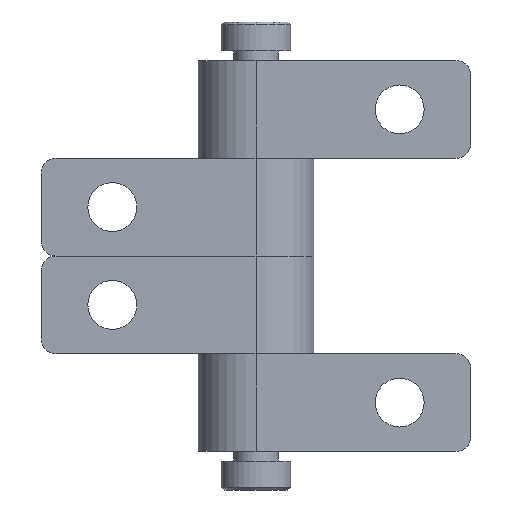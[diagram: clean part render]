
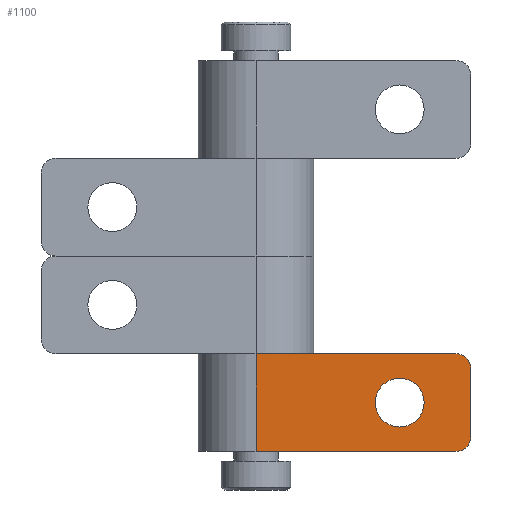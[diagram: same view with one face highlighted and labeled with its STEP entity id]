
A CAD part, front view. The second image highlights one B-rep face of the part: STEP entity #1100.
In plain terms, the highlighted planar face has unit normal (0, -1, 0).
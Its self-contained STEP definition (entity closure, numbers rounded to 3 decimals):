
#9 = CARTESIAN_POINT ( 'NONE',  ( 0., -3.9, -19.8 ) ) ;
#20 = EDGE_LOOP ( 'NONE', ( #166, #1196, #2522, #1598, #1761, #580 ) ) ;
#36 = LINE ( 'NONE', #2253, #2681 ) ;
#91 = VERTEX_POINT ( 'NONE', #2631 ) ;
#102 = CARTESIAN_POINT ( 'NONE',  ( 11.35, -3.9, -16.5 ) ) ;
#118 = VERTEX_POINT ( 'NONE', #214 ) ;
#166 = ORIENTED_EDGE ( 'NONE', *, *, #318, .F. ) ;
#179 = CARTESIAN_POINT ( 'NONE',  ( 9.7, -3.9, -16.5 ) ) ;
#214 = CARTESIAN_POINT ( 'NONE',  ( 14.5, -3.9, -18.8 ) ) ;
#243 = AXIS2_PLACEMENT_3D ( 'NONE', #1719, #1274, #1455 ) ;
#318 = EDGE_CURVE ( 'NONE', #91, #529, #493, .T. ) ;
#493 = LINE ( 'NONE', #2424, #1680 ) ;
#529 = VERTEX_POINT ( 'NONE', #2487 ) ;
#580 = ORIENTED_EDGE ( 'NONE', *, *, #749, .T. ) ;
#650 = DIRECTION ( 'NONE',  ( 1., 0., 0. ) ) ;
#688 = AXIS2_PLACEMENT_3D ( 'NONE', #1157, #2735, #2695 ) ;
#707 = ORIENTED_EDGE ( 'NONE', *, *, #1973, .T. ) ;
#749 = EDGE_CURVE ( 'NONE', #1154, #529, #36, .T. ) ;
#764 = FACE_OUTER_BOUND ( 'NONE', #20, .T. ) ;
#791 = PLANE ( 'NONE',  #1449 ) ;
#819 = DIRECTION ( 'NONE',  ( 0., 1., 0. ) ) ;
#848 = DIRECTION ( 'NONE',  ( 0., -1., 0. ) ) ;
#887 = DIRECTION ( 'NONE',  ( 0., 0., -1. ) ) ;
#899 = CARTESIAN_POINT ( 'NONE',  ( 14.5, -3.9, -14.2 ) ) ;
#909 = VECTOR ( 'NONE', #2505, 1000. ) ;
#1001 = AXIS2_PLACEMENT_3D ( 'NONE', #179, #819, #1907 ) ;
#1028 = LINE ( 'NONE', #899, #1919 ) ;
#1064 = CARTESIAN_POINT ( 'NONE',  ( 13.5, -3.9, -19.8 ) ) ;
#1075 = CARTESIAN_POINT ( 'NONE',  ( 13.5, -3.9, -18.8 ) ) ;
#1100 = ADVANCED_FACE ( 'NONE', ( #2722, #764 ), #791, .F. ) ;
#1145 = VERTEX_POINT ( 'NONE', #1064 ) ;
#1154 = VERTEX_POINT ( 'NONE', #1250 ) ;
#1157 = CARTESIAN_POINT ( 'NONE',  ( 13.5, -3.9, -14.2 ) ) ;
#1196 = ORIENTED_EDGE ( 'NONE', *, *, #2401, .F. ) ;
#1250 = CARTESIAN_POINT ( 'NONE',  ( 13.5, -3.9, -13.2 ) ) ;
#1274 = DIRECTION ( 'NONE',  ( 0., 1., 0. ) ) ;
#1321 = CIRCLE ( 'NONE', #1548, 1. ) ;
#1401 = EDGE_LOOP ( 'NONE', ( #2734, #707 ) ) ;
#1449 = AXIS2_PLACEMENT_3D ( 'NONE', #9, #1715, #650 ) ;
#1455 = DIRECTION ( 'NONE',  ( 1., 0., 0. ) ) ;
#1459 = VERTEX_POINT ( 'NONE', #2040 ) ;
#1478 = CARTESIAN_POINT ( 'NONE',  ( 14.5, -3.9, -14.2 ) ) ;
#1497 = EDGE_CURVE ( 'NONE', #1608, #1154, #2335, .T. ) ;
#1548 = AXIS2_PLACEMENT_3D ( 'NONE', #1075, #848, #1954 ) ;
#1551 = EDGE_CURVE ( 'NONE', #1145, #118, #1321, .T. ) ;
#1566 = DIRECTION ( 'NONE',  ( 0., 0., 1. ) ) ;
#1598 = ORIENTED_EDGE ( 'NONE', *, *, #1660, .F. ) ;
#1608 = VERTEX_POINT ( 'NONE', #1478 ) ;
#1628 = CARTESIAN_POINT ( 'NONE',  ( 13.5, -3.9, -19.8 ) ) ;
#1660 = EDGE_CURVE ( 'NONE', #1608, #118, #1028, .T. ) ;
#1680 = VECTOR ( 'NONE', #1566, 1000. ) ;
#1715 = DIRECTION ( 'NONE',  ( 0., 1., 0. ) ) ;
#1719 = CARTESIAN_POINT ( 'NONE',  ( 9.7, -3.9, -16.5 ) ) ;
#1761 = ORIENTED_EDGE ( 'NONE', *, *, #1497, .T. ) ;
#1838 = LINE ( 'NONE', #1628, #909 ) ;
#1884 = VERTEX_POINT ( 'NONE', #102 ) ;
#1907 = DIRECTION ( 'NONE',  ( -1., 0., 0. ) ) ;
#1919 = VECTOR ( 'NONE', #887, 1000. ) ;
#1954 = DIRECTION ( 'NONE',  ( 0., 0., -1. ) ) ;
#1973 = EDGE_CURVE ( 'NONE', #1884, #1459, #2558, .T. ) ;
#2040 = CARTESIAN_POINT ( 'NONE',  ( 8.05, -3.9, -16.5 ) ) ;
#2253 = CARTESIAN_POINT ( 'NONE',  ( 13.5, -3.9, -13.2 ) ) ;
#2335 = CIRCLE ( 'NONE', #688, 1. ) ;
#2401 = EDGE_CURVE ( 'NONE', #1145, #91, #1838, .T. ) ;
#2421 = DIRECTION ( 'NONE',  ( -1., 0., 0. ) ) ;
#2424 = CARTESIAN_POINT ( 'NONE',  ( 0., -3.9, -19.8 ) ) ;
#2430 = CIRCLE ( 'NONE', #1001, 1.65 ) ;
#2487 = CARTESIAN_POINT ( 'NONE',  ( 0., -3.9, -13.2 ) ) ;
#2505 = DIRECTION ( 'NONE',  ( -1., 0., 0. ) ) ;
#2522 = ORIENTED_EDGE ( 'NONE', *, *, #1551, .T. ) ;
#2553 = EDGE_CURVE ( 'NONE', #1459, #1884, #2430, .T. ) ;
#2558 = CIRCLE ( 'NONE', #243, 1.65 ) ;
#2631 = CARTESIAN_POINT ( 'NONE',  ( 0., -3.9, -19.8 ) ) ;
#2681 = VECTOR ( 'NONE', #2421, 1000. ) ;
#2695 = DIRECTION ( 'NONE',  ( 1., 0., 0. ) ) ;
#2722 = FACE_BOUND ( 'NONE', #1401, .T. ) ;
#2734 = ORIENTED_EDGE ( 'NONE', *, *, #2553, .T. ) ;
#2735 = DIRECTION ( 'NONE',  ( 0., -1., 0. ) ) ;
